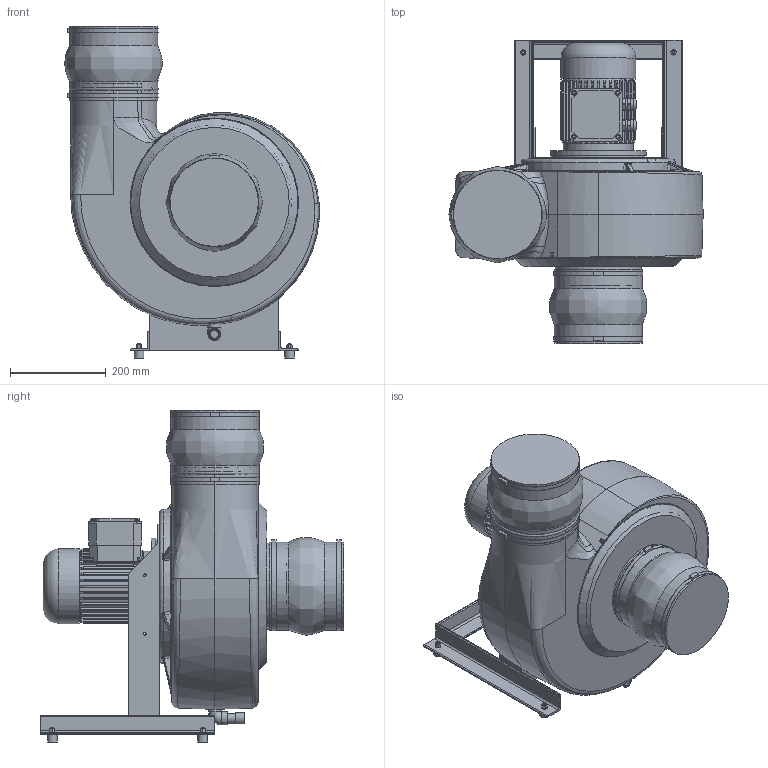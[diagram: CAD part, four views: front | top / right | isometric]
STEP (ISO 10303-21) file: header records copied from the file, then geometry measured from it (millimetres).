
FILE_DESCRIPTION( ( 'Unknown' ), '1' );
FILE_NAME( 'K:/HOME/HLT_CAD/Z/HF/3D/Zusammenstellung/HFR/HFR 15_17/HFR...-15D/DS_1/HFR_180-15D/GL360/HFR_180-15D_DS1_GL_360_080.stp', 'Unknown', ( 'Unknown' ), ( 'Unknown' ), 'PSStep 17.0.49', 'Unknown', ' ' );
FILE_SCHEMA( ( 'AUTOMOTIVE_DESIGN { 1 0 10303 214 1 1 1 1 }' ) );
Length unit declared in the file: millimetre
Products named in the file (30): Laufrad 180; Nabe 160-315; Deckscheibe 180; 1108_18; 5217_Laufradbefestigung; 5217_Drehteil; 5217_Flachdichtung_Ø32; 5217_Schraubkappe; 5217_Flachdichtung_Ø63; 6203_Kugelmanschette; 6203_Manschettenband_HFR180; 6203_Schelle_HFR180; 5294_Gestell; Angle 40x40x4-oa0; Angle 40x40x4-oa1; Angle 40x40x4-oa2; 5294_Gehäusebefestigung-oa3; 5159_Kondensatablauf_125-315; Winkel_90°_G1_2; Stopfen_G1_2-oa4; Rohr_20; Verschlusskappe_20; Assem1; 180 mit laufrad HF R 180; 6611_Motorring_Bg80; B5_80a_2HIHI; HFR 180_GL_abgeschn; Schwidä_20x15; 6kant_M6
Assembly tree (37 placements, depth 3):
  Assem1
    180 mit laufrad HF R 180
    6611_Motorring_Bg80
    B5_80a_2HIHI
    HFR 180_GL_abgeschn
    Schwidä_20x15  x4
    6kant_M6  x4
    5294_Gestell
      Angle 40x40x4-oa0
      Angle 40x40x4-oa1
      Angle 40x40x4-oa2
      5294_Gehäusebefestigung-oa3
    Laufrad 180
      Nabe 160-315
      Laufrad 180
      Deckscheibe 180
      1108_18
    5159_Kondensatablauf_125-315
      Winkel_90°_G1_2
      Stopfen_G1_2-oa4
      Rohr_20
      Verschlusskappe_20
    6203_Kugelmanschette  x2
      6203_Manschettenband_HFR180
      6203_Schelle_HFR180
    5217_Laufradbefestigung
      5217_Drehteil
      5217_Flachdichtung_Ø32
      5217_Schraubkappe
      5217_Flachdichtung_Ø63
Bounding box: 530.89 x 633 x 693 mm (x, y, z)
Volume: 18630464.6 mm3; surface area: 2981544.5 mm2
Topology: 33 solids, 34 shells, 1899 faces, 4491 edges, 2831 vertices
Faces by surface type: plane 903, cylinder 478, bspline 236, cone 129, torus 115, offset 28, revolution 6, sphere 4
Full cylindrical faces by diameter (mm): 3.5 x3, 4.917 x5, 4.92 x4, 5.5 x4, 6 x8, 8 x6, 9 x2, 10 x4, 10.5 x1, 11 x12, 12 x53, 13 x57, 13.5 x15, 16 x2, 17 x9, 19 x1, 20 x8, 20.955 x1, 22.212 x1, 22.8 x1, 23 x1, 24 x4, 25 x1, 26.5 x2, 30.291 x1, 32 x1, 33.25 x1, 37 x1, 40 x1, 44 x1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
Entity records: 128080 total; most frequent: CARTESIAN_POINT 74544, ORIENTED_EDGE 7746, DIRECTION 7402, EDGE_CURVE 3873, AXIS2_PLACEMENT_3D 2952, VERTEX_POINT 2608, EDGE_LOOP 2399, FACE_OUTER_BOUND 2102
